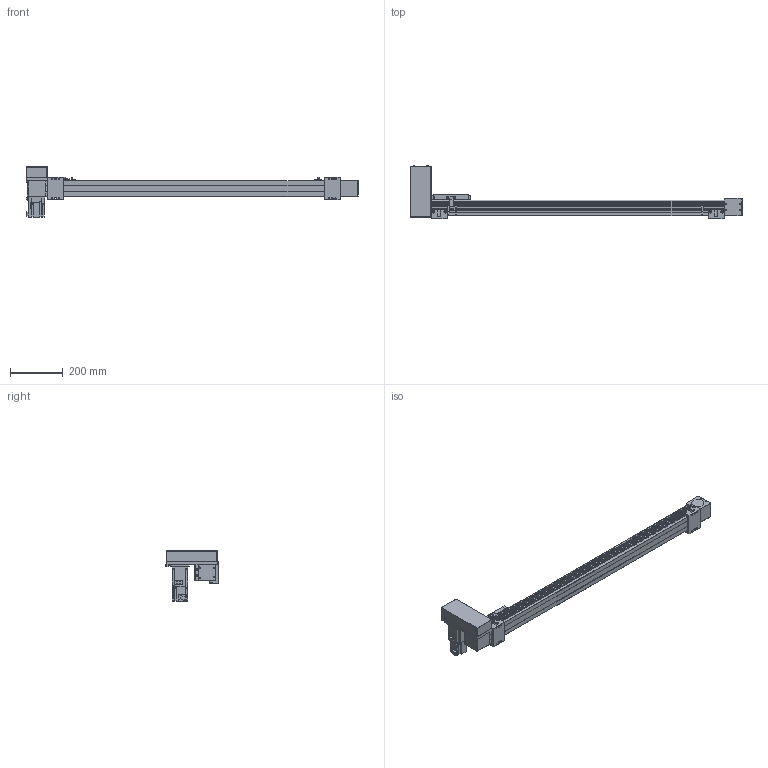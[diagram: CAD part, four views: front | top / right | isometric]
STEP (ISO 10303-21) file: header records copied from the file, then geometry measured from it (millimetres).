
FILE_DESCRIPTION(/* description */ ('STEP AP214'),/* implementation_level */ '2;1');
FILE_NAME(/* name */ 'SK60-P13-S950-RU-T40-C1-N(0)',/* time_stamp */ '2023-04-06T05:02:45+02:00',/* author */ ('License CC BY-ND 4.0'),/* organization */ ('CADENAS'),/* preprocessor_version */ 'ST-DEVELOPER v19.3',/* originating_system */ 'PARTsolutions',/* authorisation */ ' ');
FILE_SCHEMA (('AUTOMOTIVE_DESIGN {1 0 10303 214 3 1 1}'));
Length unit declared in the file: millimetre
Products named in the file (10): SK60-P13-S950-RU-T40-C1-N(0); PSC140-sensor; SK60-S450_seat; SK60-S450-BL-C1_slider; SK60_body3; SK60_body6; SK60-BL_body2; T40-p1; SK60-RU_fb; SK60-S950-RU-C1_body
Assembly tree (16 placements, depth 2):
  SK60-P13-S950-RU-T40-C1-N(0)
    PSC140-sensor  x3
    SK60-S450_seat  x2
    SK60-S450-BL-C1_slider
    SK60_body3  x3
    SK60_body6  x2
    SK60-BL_body2  x2
    T40-p1
    SK60-RU_fb
    SK60-S950-RU-C1_body
Bounding box: 1255.5 x 201 x 189.7 mm (x, y, z)
Volume: 5430269.5 mm3; surface area: 679036.5 mm2
Topology: 16 solids, 16 shells, 810 faces, 2048 edges, 1349 vertices
Faces by surface type: plane 524, cylinder 262, cone 22, torus 2
Full cylindrical faces by diameter (mm): 2.8 x3, 3.3 x4, 4 x2, 4.5 x30, 4.6 x3, 4.917 x16, 5 x6, 5.478 x4, 5.5 x19, 6.5 x4, 7 x2, 8 x4, 8.5 x4, 9.988 x4, 10 x8, 14 x1, 47 x3, 50 x2
Entity records: 18655 total; most frequent: DIRECTION 3184, CARTESIAN_POINT 3150, ORIENTED_EDGE 2940, EDGE_CURVE 1470, AXIS2_PLACEMENT_3D 1068, LINE 1048, VECTOR 1048, VERTEX_POINT 1034
